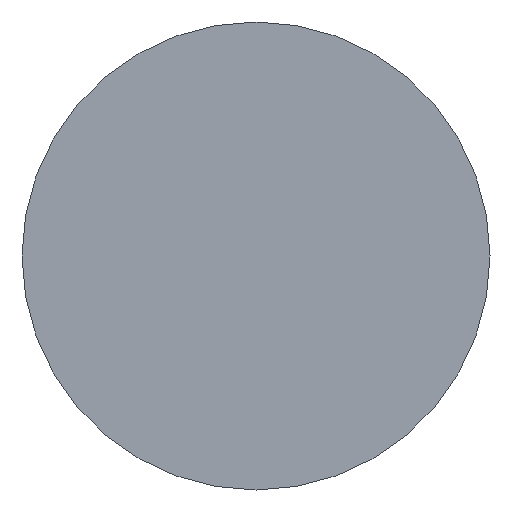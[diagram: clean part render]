
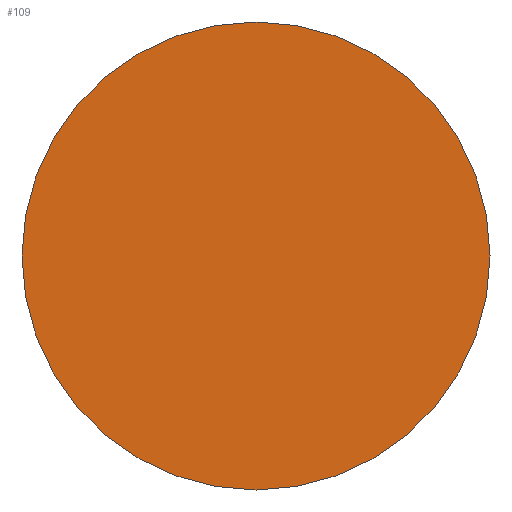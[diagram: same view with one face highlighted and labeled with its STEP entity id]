
A CAD part, left-side view. The second image highlights one B-rep face of the part: STEP entity #109.
In plain terms, the highlighted planar face has unit normal (-1, 0, 0).
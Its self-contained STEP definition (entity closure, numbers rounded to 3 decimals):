
#24 = VERTEX_POINT('',#25);
#25 = CARTESIAN_POINT('',(-62.5,20.,240.));
#32 = CYLINDRICAL_SURFACE('',#33,20.);
#33 = AXIS2_PLACEMENT_3D('',#34,#35,#36);
#34 = CARTESIAN_POINT('',(-52.5,0.,240.));
#35 = DIRECTION('',(1.,0.,0.));
#36 = DIRECTION('',(0.,1.,0.));
#51 = EDGE_CURVE('',#24,#24,#52,.T.);
#52 = SURFACE_CURVE('',#53,(#58,#65),.PCURVE_S1.);
#53 = CIRCLE('',#54,20.);
#54 = AXIS2_PLACEMENT_3D('',#55,#56,#57);
#55 = CARTESIAN_POINT('',(-62.5,0.,240.));
#56 = DIRECTION('',(1.,0.,0.));
#57 = DIRECTION('',(0.,1.,0.));
#58 = PCURVE('',#32,#59);
#59 = DEFINITIONAL_REPRESENTATION('',(#60),#64);
#60 = LINE('',#61,#62);
#61 = CARTESIAN_POINT('',(0.,-10.));
#62 = VECTOR('',#63,1.);
#63 = DIRECTION('',(1.,0.));
#64 = ( GEOMETRIC_REPRESENTATION_CONTEXT(2) 
PARAMETRIC_REPRESENTATION_CONTEXT() REPRESENTATION_CONTEXT('2D SPACE',''
  ) );
#65 = PCURVE('',#66,#71);
#66 = PLANE('',#67);
#67 = AXIS2_PLACEMENT_3D('',#68,#69,#70);
#68 = CARTESIAN_POINT('',(-62.5,0.,240.));
#69 = DIRECTION('',(1.,0.,0.));
#70 = DIRECTION('',(-0.,0.,1.));
#71 = DEFINITIONAL_REPRESENTATION('',(#72),#76);
#72 = CIRCLE('',#73,20.);
#73 = AXIS2_PLACEMENT_2D('',#74,#75);
#74 = CARTESIAN_POINT('',(0.,0.));
#75 = DIRECTION('',(0.,-1.));
#76 = ( GEOMETRIC_REPRESENTATION_CONTEXT(2) 
PARAMETRIC_REPRESENTATION_CONTEXT() REPRESENTATION_CONTEXT('2D SPACE',''
  ) );
#109 = ADVANCED_FACE('',(#110),#66,.F.);
#110 = FACE_BOUND('',#111,.F.);
#111 = EDGE_LOOP('',(#112));
#112 = ORIENTED_EDGE('',*,*,#51,.T.);
